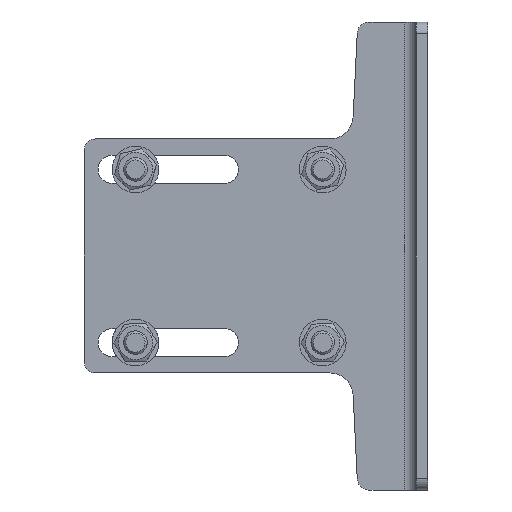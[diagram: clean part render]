
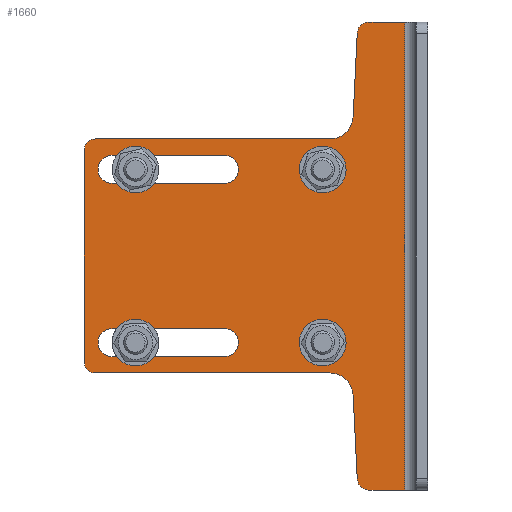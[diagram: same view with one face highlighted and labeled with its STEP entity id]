
A CAD part, left-side view. The second image highlights one B-rep face of the part: STEP entity #1660.
In plain terms, the highlighted planar face has unit normal (-1, 0, 0).
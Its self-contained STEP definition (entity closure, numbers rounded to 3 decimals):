
#154=FACE_BOUND('',#390,.T.);
#155=FACE_BOUND('',#391,.T.);
#156=FACE_BOUND('',#392,.T.);
#157=FACE_BOUND('',#393,.T.);
#210=PLANE('',#1809);
#278=FACE_OUTER_BOUND('',#389,.T.);
#389=EDGE_LOOP('',(#1327,#1328,#1329,#1330,#1331,#1332,#1333,#1334,#1335,
#1336,#1337,#1338,#1339,#1340));
#390=EDGE_LOOP('',(#1341,#1342,#1343,#1344));
#391=EDGE_LOOP('',(#1345));
#392=EDGE_LOOP('',(#1346));
#393=EDGE_LOOP('',(#1347,#1348,#1349,#1350));
#496=LINE('',#2516,#606);
#500=LINE('',#2526,#610);
#505=LINE('',#2541,#615);
#508=LINE('',#2550,#618);
#511=LINE('',#2561,#621);
#520=LINE('',#2607,#630);
#523=LINE('',#2615,#633);
#528=LINE('',#2631,#638);
#531=LINE('',#2638,#641);
#533=LINE('',#2642,#643);
#537=LINE('',#2651,#647);
#539=LINE('',#2658,#649);
#606=VECTOR('',#1992,100.012);
#610=VECTOR('',#2004,35.784);
#615=VECTOR('',#2017,48.);
#618=VECTOR('',#2028,48.);
#621=VECTOR('',#2039,90.);
#630=VECTOR('',#2084,35.784);
#633=VECTOR('',#2093,100.012);
#638=VECTOR('',#2112,48.);
#641=VECTOR('',#2121,48.);
#643=VECTOR('',#2125,15.241);
#647=VECTOR('',#2135,200.);
#649=VECTOR('',#2147,15.241);
#709=CIRCLE('',#1745,5.);
#711=CIRCLE('',#1748,5.);
#713=CIRCLE('',#1752,10.);
#715=CIRCLE('',#1756,6.);
#717=CIRCLE('',#1760,6.);
#719=CIRCLE('',#1764,6.);
#730=CIRCLE('',#1782,6.);
#731=CIRCLE('',#1785,10.);
#732=CIRCLE('',#1788,5.);
#733=CIRCLE('',#1790,5.);
#734=CIRCLE('',#1792,6.);
#735=CIRCLE('',#1795,6.);
#800=VERTEX_POINT('',#2498);
#801=VERTEX_POINT('',#2500);
#804=VERTEX_POINT('',#2507);
#805=VERTEX_POINT('',#2509);
#807=VERTEX_POINT('',#2515);
#809=VERTEX_POINT('',#2521);
#812=VERTEX_POINT('',#2531);
#813=VERTEX_POINT('',#2533);
#815=VERTEX_POINT('',#2539);
#817=VERTEX_POINT('',#2545);
#819=VERTEX_POINT('',#2554);
#821=VERTEX_POINT('',#2559);
#838=VERTEX_POINT('',#2601);
#839=VERTEX_POINT('',#2604);
#840=VERTEX_POINT('',#2606);
#841=VERTEX_POINT('',#2610);
#842=VERTEX_POINT('',#2614);
#843=VERTEX_POINT('',#2620);
#844=VERTEX_POINT('',#2624);
#845=VERTEX_POINT('',#2626);
#846=VERTEX_POINT('',#2630);
#847=VERTEX_POINT('',#2634);
#848=VERTEX_POINT('',#2640);
#850=VERTEX_POINT('',#2649);
#955=EDGE_CURVE('',#801,#800,#709,.T.);
#959=EDGE_CURVE('',#805,#804,#711,.T.);
#962=EDGE_CURVE('',#807,#805,#496,.T.);
#965=EDGE_CURVE('',#809,#807,#713,.T.);
#968=EDGE_CURVE('',#800,#809,#500,.T.);
#971=EDGE_CURVE('',#813,#812,#715,.T.);
#975=EDGE_CURVE('',#812,#815,#505,.T.);
#978=EDGE_CURVE('',#815,#817,#717,.T.);
#980=EDGE_CURVE('',#817,#813,#508,.T.);
#982=EDGE_CURVE('',#819,#819,#719,.T.);
#985=EDGE_CURVE('',#821,#804,#511,.T.);
#1003=EDGE_CURVE('',#838,#838,#730,.T.);
#1005=EDGE_CURVE('',#840,#839,#520,.T.);
#1007=EDGE_CURVE('',#841,#840,#731,.T.);
#1009=EDGE_CURVE('',#842,#841,#523,.T.);
#1011=EDGE_CURVE('',#821,#842,#732,.T.);
#1013=EDGE_CURVE('',#839,#843,#733,.T.);
#1015=EDGE_CURVE('',#845,#844,#734,.T.);
#1017=EDGE_CURVE('',#846,#845,#528,.T.);
#1019=EDGE_CURVE('',#847,#846,#735,.T.);
#1021=EDGE_CURVE('',#844,#847,#531,.T.);
#1023=EDGE_CURVE('',#843,#848,#533,.T.);
#1028=EDGE_CURVE('',#850,#848,#537,.T.);
#1032=EDGE_CURVE('',#801,#850,#539,.T.);
#1327=ORIENTED_EDGE('',*,*,#959,.T.);
#1328=ORIENTED_EDGE('',*,*,#985,.F.);
#1329=ORIENTED_EDGE('',*,*,#1011,.T.);
#1330=ORIENTED_EDGE('',*,*,#1009,.T.);
#1331=ORIENTED_EDGE('',*,*,#1007,.T.);
#1332=ORIENTED_EDGE('',*,*,#1005,.T.);
#1333=ORIENTED_EDGE('',*,*,#1013,.T.);
#1334=ORIENTED_EDGE('',*,*,#1023,.T.);
#1335=ORIENTED_EDGE('',*,*,#1028,.F.);
#1336=ORIENTED_EDGE('',*,*,#1032,.F.);
#1337=ORIENTED_EDGE('',*,*,#955,.T.);
#1338=ORIENTED_EDGE('',*,*,#968,.T.);
#1339=ORIENTED_EDGE('',*,*,#965,.T.);
#1340=ORIENTED_EDGE('',*,*,#962,.T.);
#1341=ORIENTED_EDGE('',*,*,#971,.T.);
#1342=ORIENTED_EDGE('',*,*,#975,.T.);
#1343=ORIENTED_EDGE('',*,*,#978,.T.);
#1344=ORIENTED_EDGE('',*,*,#980,.T.);
#1345=ORIENTED_EDGE('',*,*,#982,.T.);
#1346=ORIENTED_EDGE('',*,*,#1003,.T.);
#1347=ORIENTED_EDGE('',*,*,#1019,.T.);
#1348=ORIENTED_EDGE('',*,*,#1017,.T.);
#1349=ORIENTED_EDGE('',*,*,#1015,.T.);
#1350=ORIENTED_EDGE('',*,*,#1021,.T.);
#1660=ADVANCED_FACE('',(#278,#154,#155,#156,#157),#210,.F.);
#1745=AXIS2_PLACEMENT_3D('',#2501,#1978,#1979);
#1748=AXIS2_PLACEMENT_3D('',#2510,#1986,#1987);
#1752=AXIS2_PLACEMENT_3D('',#2522,#1998,#1999);
#1756=AXIS2_PLACEMENT_3D('',#2534,#2010,#2011);
#1760=AXIS2_PLACEMENT_3D('',#2547,#2023,#2024);
#1764=AXIS2_PLACEMENT_3D('',#2555,#2033,#2034);
#1782=AXIS2_PLACEMENT_3D('',#2602,#2079,#2080);
#1785=AXIS2_PLACEMENT_3D('',#2611,#2088,#2089);
#1788=AXIS2_PLACEMENT_3D('',#2618,#2097,#2098);
#1790=AXIS2_PLACEMENT_3D('',#2622,#2102,#2103);
#1792=AXIS2_PLACEMENT_3D('',#2627,#2107,#2108);
#1795=AXIS2_PLACEMENT_3D('',#2635,#2116,#2117);
#1809=AXIS2_PLACEMENT_3D('',#2662,#2154,#2155);
#1978=DIRECTION('center_axis',(-1.,0.,0.));
#1979=DIRECTION('ref_axis',(0.,0.999,0.049));
#1986=DIRECTION('center_axis',(-1.,0.,0.));
#1987=DIRECTION('ref_axis',(0.,1.,0.));
#1992=DIRECTION('',(0.,1.,0.));
#1998=DIRECTION('center_axis',(1.,0.,0.));
#1999=DIRECTION('ref_axis',(0.,0.999,0.049));
#2004=DIRECTION('',(0.,0.049,-0.999));
#2010=DIRECTION('center_axis',(1.,0.,0.));
#2011=DIRECTION('ref_axis',(0.,0.,1.));
#2017=DIRECTION('',(0.,1.,0.));
#2023=DIRECTION('center_axis',(1.,0.,0.));
#2024=DIRECTION('ref_axis',(0.,0.,-1.));
#2028=DIRECTION('',(0.,-1.,0.));
#2033=DIRECTION('center_axis',(1.,0.,0.));
#2034=DIRECTION('ref_axis',(0.,0.,1.));
#2039=DIRECTION('',(0.,0.,1.));
#2079=DIRECTION('center_axis',(1.,0.,0.));
#2080=DIRECTION('ref_axis',(0.,0.,-1.));
#2084=DIRECTION('',(0.,-0.049,-0.999));
#2088=DIRECTION('center_axis',(1.,0.,0.));
#2089=DIRECTION('ref_axis',(0.,0.999,-0.049));
#2093=DIRECTION('',(0.,-1.,0.));
#2097=DIRECTION('center_axis',(-1.,0.,0.));
#2098=DIRECTION('ref_axis',(0.,1.,0.));
#2102=DIRECTION('center_axis',(-1.,0.,0.));
#2103=DIRECTION('ref_axis',(0.,0.999,-0.049));
#2107=DIRECTION('center_axis',(1.,0.,0.));
#2108=DIRECTION('ref_axis',(0.,0.,-1.));
#2112=DIRECTION('',(0.,-1.,0.));
#2116=DIRECTION('center_axis',(1.,0.,0.));
#2117=DIRECTION('ref_axis',(0.,0.,1.));
#2121=DIRECTION('',(0.,1.,0.));
#2125=DIRECTION('',(0.,-1.,0.));
#2135=DIRECTION('',(0.,0.,-1.));
#2147=DIRECTION('',(0.,-1.,0.));
#2154=DIRECTION('center_axis',(1.,0.,0.));
#2155=DIRECTION('ref_axis',(0.,0.,-1.));
#2498=CARTESIAN_POINT('',(-5.,30.235,195.247));
#2500=CARTESIAN_POINT('',(-5.,25.241,200.));
#2501=CARTESIAN_POINT('Origin',(-5.,25.241,195.));
#2507=CARTESIAN_POINT('',(-5.,147.,145.));
#2509=CARTESIAN_POINT('',(-5.,142.,150.));
#2510=CARTESIAN_POINT('Origin',(-5.,142.,145.));
#2515=CARTESIAN_POINT('',(-5.,41.988,150.));
#2516=CARTESIAN_POINT('',(-5.,39.916,150.));
#2521=CARTESIAN_POINT('',(-5.,32.,159.507));
#2522=CARTESIAN_POINT('Origin',(-5.,41.988,160.));
#2526=CARTESIAN_POINT('',(-5.,32.59,147.552));
#2531=CARTESIAN_POINT('',(-5.,87.,131.));
#2533=CARTESIAN_POINT('',(-5.,87.,143.));
#2534=CARTESIAN_POINT('Origin',(-5.,87.,137.));
#2539=CARTESIAN_POINT('',(-5.,135.,131.));
#2541=CARTESIAN_POINT('',(-5.,86.423,131.));
#2545=CARTESIAN_POINT('',(-5.,135.,143.));
#2547=CARTESIAN_POINT('Origin',(-5.,135.,137.));
#2550=CARTESIAN_POINT('',(-5.,62.423,143.));
#2554=CARTESIAN_POINT('',(-5.,45.,131.));
#2555=CARTESIAN_POINT('Origin',(-5.,45.,137.));
#2559=CARTESIAN_POINT('',(-5.,147.,55.));
#2561=CARTESIAN_POINT('',(-5.,147.,0.));
#2601=CARTESIAN_POINT('',(-5.,45.,69.));
#2602=CARTESIAN_POINT('Origin',(-5.,45.,63.));
#2604=CARTESIAN_POINT('',(-5.,30.235,4.753));
#2606=CARTESIAN_POINT('',(-5.,32.,40.493));
#2607=CARTESIAN_POINT('',(-5.,32.59,52.448));
#2610=CARTESIAN_POINT('',(-5.,41.988,50.));
#2611=CARTESIAN_POINT('Origin',(-5.,41.988,40.));
#2614=CARTESIAN_POINT('',(-5.,142.,50.));
#2615=CARTESIAN_POINT('',(-5.,39.916,50.));
#2618=CARTESIAN_POINT('Origin',(-5.,142.,55.));
#2620=CARTESIAN_POINT('',(-5.,25.241,0.));
#2622=CARTESIAN_POINT('Origin',(-5.,25.241,5.));
#2624=CARTESIAN_POINT('',(-5.,87.,57.));
#2626=CARTESIAN_POINT('',(-5.,87.,69.));
#2627=CARTESIAN_POINT('Origin',(-5.,87.,63.));
#2630=CARTESIAN_POINT('',(-5.,135.,69.));
#2631=CARTESIAN_POINT('',(-5.,86.423,69.));
#2634=CARTESIAN_POINT('',(-5.,135.,57.));
#2635=CARTESIAN_POINT('Origin',(-5.,135.,63.));
#2638=CARTESIAN_POINT('',(-5.,62.423,57.));
#2640=CARTESIAN_POINT('',(-5.,10.,0.));
#2642=CARTESIAN_POINT('',(-5.,147.,0.));
#2649=CARTESIAN_POINT('',(-5.,10.,200.));
#2651=CARTESIAN_POINT('',(-5.,10.,100.));
#2658=CARTESIAN_POINT('',(-5.,147.,200.));
#2662=CARTESIAN_POINT('Origin',(-5.,37.845,100.));
